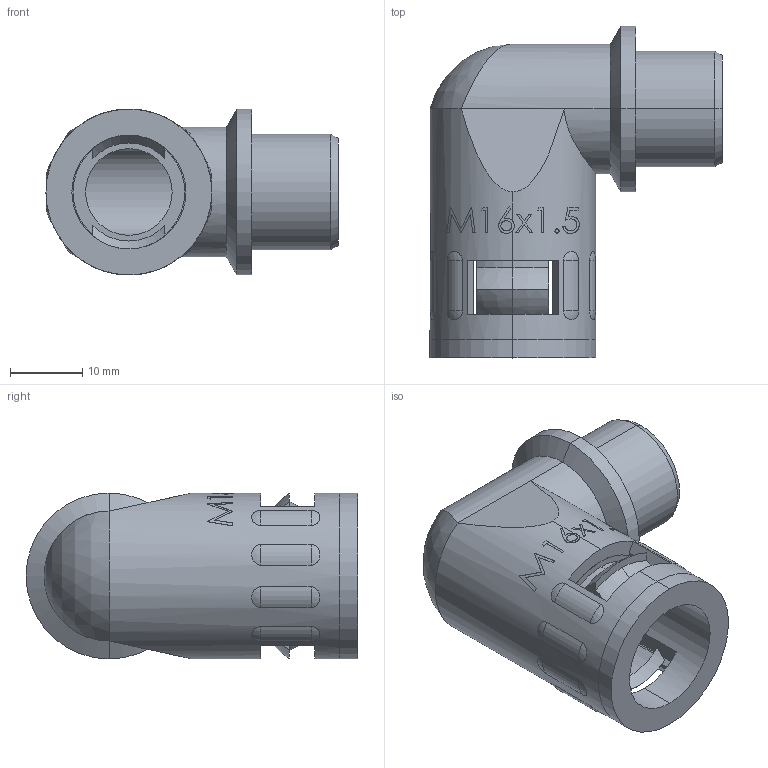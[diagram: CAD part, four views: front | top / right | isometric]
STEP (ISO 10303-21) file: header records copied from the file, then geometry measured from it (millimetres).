
FILE_DESCRIPTION (( 'STEP AP203' ), '1' );
FILE_NAME ('WQW-M16-AD15.8.STEP', '2017-06-01T08:22:24', ( '' ), ( '' ), 'SwSTEP 2.0', 'SolidWorks 2016', '' );
FILE_SCHEMA (( 'CONFIG_CONTROL_DESIGN' ));
Length unit declared in the file: millimetre
Products named in the file (3): WQW-M16-AD15.8; NSK-AD15.8; WQW1-M16-AD15.8-01
Assembly tree (2 placements, depth 2):
  WQW-M16-AD15.8
    WQW1-M16-AD15.8-01
    NSK-AD15.8
Bounding box: 40.5 x 46 x 23 mm (x, y, z)
Volume: 11574 mm3; surface area: 9343.9 mm2
Topology: 4 solids, 4 shells, 184 faces, 484 edges, 316 vertices
Faces by surface type: plane 86, cylinder 44, bspline 21, sphere 17, torus 9, cone 7
Entity records: 7422 total; most frequent: CARTESIAN_POINT 2774, ORIENTED_EDGE 962, DIRECTION 851, EDGE_CURVE 481, AXIS2_PLACEMENT_3D 327, VERTEX_POINT 316, EDGE_LOOP 207, LINE 197
